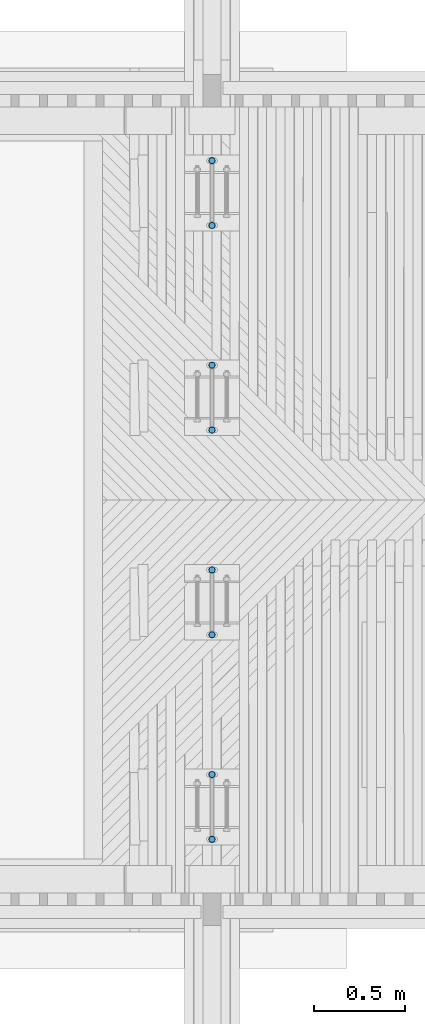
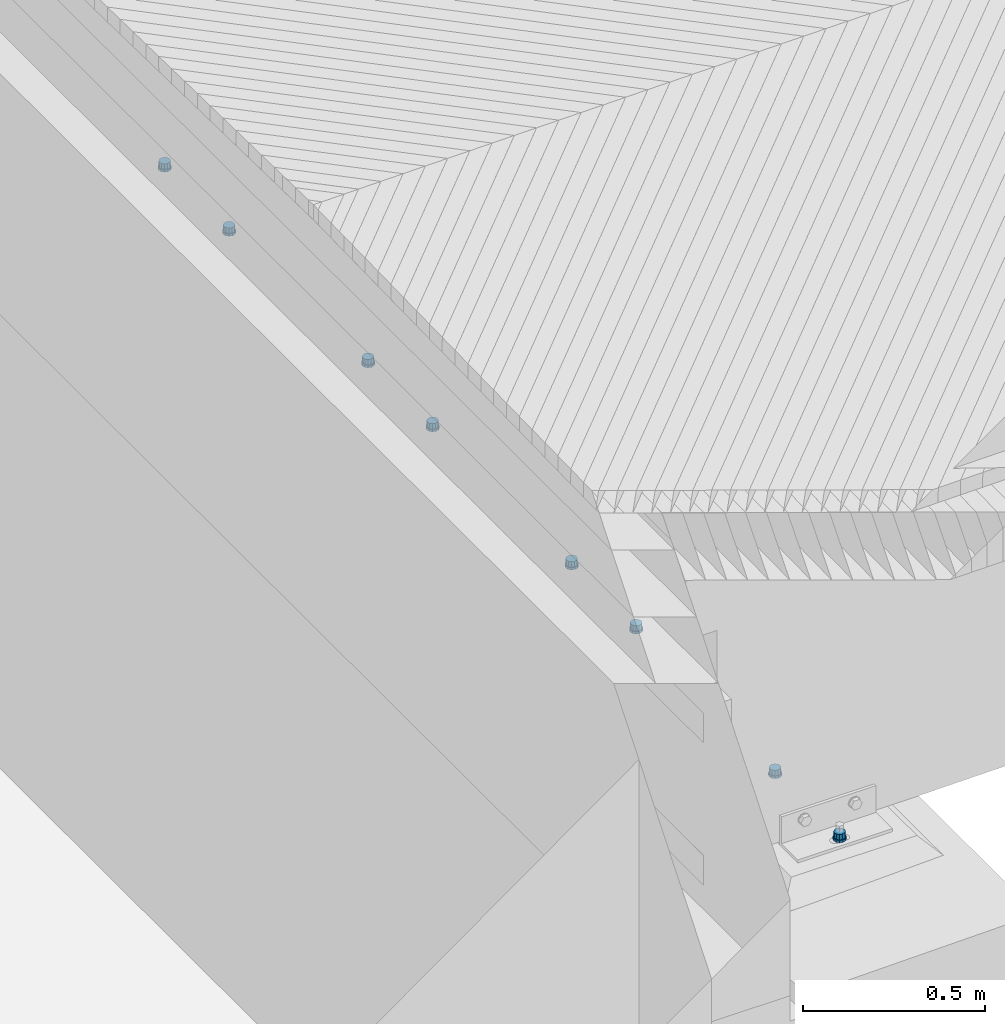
# One storey, part 14 of 53: 16 columns.
"""IFC2X3 building model written with IfcOpenShell, lengths in millimetres."""

import ifcopenshell
import ifcopenshell.guid

model = None  # the IFC model being written
_history = None  # IfcOwnerHistory: only IFC2X3 demands one
_inside = {}  # id of a spatial element -> (the spatial element, [elements in it])
_under = {}  # id of a project, library or spatial element -> (it, [spatial elements below it])
_declared = {}  # id of a project -> (the project, [libraries it declares])
_typed = {}  # id of a type object -> (the type object, [elements of that type])
_made_of = {}  # id of a material, layer set ... -> (it, [elements and type objects made of it])


def new_model(schema):
    """Start an empty IFC model of exactly this schema.

    Asked for "IFC4X3", IfcOpenShell would pick the latest addendum, in which some entities
    have other attributes; the version numbers below select the first issue.
    IFC2X3 requires an IfcOwnerHistory on every rooted entity: one is made here for all.
    """
    global model, _history
    if schema == "IFC4X3":
        model = ifcopenshell.file(schema_version=(4, 3, 0, 0))
    else:
        model = ifcopenshell.file(schema=schema)
    _inside.clear()
    _under.clear()
    _declared.clear()
    _typed.clear()
    _made_of.clear()
    _history = None
    if model.schema == "IFC2X3":
        org = make("IfcOrganization", Name="unknown")
        user = make(
            "IfcPersonAndOrganization",
            ThePerson=make("IfcPerson", FamilyName="unknown"),
            TheOrganization=org,
        )
        app = make(
            "IfcApplication",
            ApplicationDeveloper=org,
            Version="unknown",
            ApplicationFullName="unknown",
            ApplicationIdentifier="unknown",
        )
        _history = make(
            "IfcOwnerHistory",
            OwningUser=user,
            OwningApplication=app,
            ChangeAction="ADDED",
            CreationDate=0,
        )
    return model


def make(cls, **values):
    """One entity of the class cls with the attributes given. An attribute that is None is left unset."""
    return model.create_entity(
        cls, **{name: value for name, value in values.items() if value is not None}
    )


def rooted(cls, **values):
    """An entity with a GlobalId (a new one), such as an element, a storey or a relation."""
    return make(cls, GlobalId=ifcopenshell.guid.new(), OwnerHistory=_history, **values)


def si_unit(unit_type, name, prefix=None):
    """IfcSIUnit, for example si_unit("LENGTHUNIT", "METRE", prefix="MILLI")."""
    return make("IfcSIUnit", UnitType=unit_type, Prefix=prefix, Name=name)


def assignment(units):
    """IfcUnitAssignment: the units of a project."""
    return None if units is None else make("IfcUnitAssignment", Units=units)


def point(xyz):
    """IfcCartesianPoint."""
    return None if xyz is None else make("IfcCartesianPoint", Coordinates=xyz)


def direction(xyz):
    """IfcDirection."""
    return None if xyz is None else make("IfcDirection", DirectionRatios=xyz)


def frame(location, z_axis=None, x_axis=None):
    """IfcAxis2Placement3D, a coordinate frame: its origin and axes. An axis left out is left unset."""
    return make(
        "IfcAxis2Placement3D",
        Location=point(location),
        Axis=direction(z_axis),
        RefDirection=direction(x_axis),
    )


def origin_with_axes():
    """The frame at (0, 0, 0) with the z axis (0, 0, 1) and the x axis (1, 0, 0) written out."""
    return frame((0.0, 0.0, 0.0), z_axis=(0.0, 0.0, 1.0), x_axis=(1.0, 0.0, 0.0))


def place(relative_to, where):
    """IfcLocalPlacement: puts the frame where relative to a parent placement (None: the world)."""
    return make(
        "IfcLocalPlacement", PlacementRelTo=relative_to, RelativePlacement=where
    )


def context(
    kind, dimensions, precision=None, world=None, true_north=None, identifier=None
):
    """IfcGeometricRepresentationContext, for example the 3D "Model" context."""
    return make(
        "IfcGeometricRepresentationContext",
        ContextIdentifier=identifier,
        ContextType=kind,
        CoordinateSpaceDimension=dimensions,
        Precision=precision,
        WorldCoordinateSystem=world,
        TrueNorth=true_north,
    )


def subcontext(parent, identifier, kind, view, scale=None):
    """IfcGeometricRepresentationSubContext, for example "Body" below "Model"."""
    return make(
        "IfcGeometricRepresentationSubContext",
        ContextIdentifier=identifier,
        ContextType=kind,
        ParentContext=parent,
        TargetScale=scale,
        TargetView=view,
    )


def project(units=None, contexts=None):
    """IfcProject with its units and contexts."""
    return rooted(
        "IfcProject",
        Name="project",
        RepresentationContexts=contexts,
        UnitsInContext=assignment(units),
    )


def spatial(cls, under=None, at=None, **own):
    """A site, building, storey or space (cls), placed at a placement, below another one or the project."""
    s = rooted(cls, ObjectPlacement=at, **own)
    if under is not None:
        _under.setdefault(under.id(), (under, []))[1].append(s)
    return s


def faces_of(points, faces, orient=None, outer=None):
    """IfcFace entities. A face is a list of loops; a loop is a list of indices into points, from 0.

    orient and outer hold one flag for each loop. By default every Orientation is true, the
    first loop of a face is its IfcFaceOuterBound and the others are IfcFaceBound.
    """
    made = []
    for i, loops in enumerate(faces):
        bounds = []
        for j, loop in enumerate(loops):
            is_outer = j == 0 if outer is None else outer[i][j]
            bounds.append(
                make(
                    "IfcFaceOuterBound" if is_outer else "IfcFaceBound",
                    Bound=make("IfcPolyLoop", Polygon=[points[k] for k in loop]),
                    Orientation=True if orient is None else orient[i][j],
                )
            )
        made.append(make("IfcFace", Bounds=bounds))
    return made


def faceted_brep(points, faces, orient=None, outer=None, voids=None):
    """IfcFacetedBrep: a solid bounded by flat faces; with voids (closed shells), ...WithVoids."""
    shared = [point(p) for p in points]
    hull = make("IfcClosedShell", CfsFaces=faces_of(shared, faces, orient, outer))
    if voids is None:
        return make("IfcFacetedBrep", Outer=hull)
    return make(
        "IfcFacetedBrepWithVoids",
        Outer=hull,
        Voids=[
            make(cls, CfsFaces=faces_of(shared, fs, o, b)) for cls, fs, o, b in voids
        ],
    )


def shape(context_of_items, identifier, shape_type, items):
    """IfcShapeRepresentation: the items that make up one representation, for example the "Body"."""
    return make(
        "IfcShapeRepresentation",
        ContextOfItems=context_of_items,
        RepresentationIdentifier=identifier,
        RepresentationType=shape_type,
        Items=items,
    )


def material(Name=None, Category=None):
    """IfcMaterial."""
    return make("IfcMaterial", Name=Name, Category=Category)


def made_of(thing, what):
    """Note that an element or type object is made of a material, layer set ...; save() writes the relation."""
    if what is not None:
        _made_of.setdefault(what.id(), (what, []))[1].append(thing)
    return thing


def type_object(cls, material=None, **own):
    """A type object (cls), such as IfcWallType, which elements share."""
    return made_of(rooted(cls, **own), material)


def element(
    cls,
    number,
    at=None,
    inside=None,
    cuts=None,
    type_object=None,
    material=None,
    context=None,
    identifier="Body",
    shape_type=None,
    held_by="IfcProductDefinitionShape",
    body=None,
    shapes=None,
    **own,
):
    """One element of the class cls, such as IfcWall. Its Tag is "e" and its number.

    at: its placement. inside: the storey or other place that contains it. cuts: it is an
    opening in that element (IfcRelVoidsElement). A single representation is given by context,
    identifier, shape_type and body (its items); several are given by shapes. held_by: the class
    of the entity that holds the representations. save() writes the other relations.
    """
    e = rooted(cls, Tag="e%d" % number, ObjectPlacement=at, **own)
    if body is not None:
        shapes = [shape(context, identifier, shape_type, body)]
    if shapes is not None:
        e.Representation = make(held_by, Representations=shapes)
    if inside is not None:
        _inside.setdefault(inside.id(), (inside, []))[1].append(e)
    if cuts is not None:
        rooted(
            "IfcRelVoidsElement", RelatingBuildingElement=cuts, RelatedOpeningElement=e
        )
    if type_object is not None:
        _typed.setdefault(type_object.id(), (type_object, []))[1].append(e)
    return made_of(e, material)


def aggregate(whole, parts):
    """IfcRelAggregates: a whole, such as a stair, and the parts it consists of."""
    return rooted("IfcRelAggregates", RelatingObject=whole, RelatedObjects=parts)


def save(model, path):
    """Write the relations noted so far, then the file.

    IfcRelAggregates (storeys below a building ...), IfcRelContainedInSpatialStructure (elements
    in a storey), IfcRelDefinesByType, IfcRelAssociatesMaterial and IfcRelDeclares: one each for
    every whole, place, type object, material and project.
    """
    for whole, parts in _under.values():
        aggregate(whole, parts)
    for where, things in _inside.values():
        rooted(
            "IfcRelContainedInSpatialStructure",
            RelatedElements=things,
            RelatingStructure=where,
        )
    for kind, things in _typed.values():
        rooted("IfcRelDefinesByType", RelatedObjects=things, RelatingType=kind)
    for what, things in _made_of.values():
        rooted("IfcRelAssociatesMaterial", RelatedObjects=things, RelatingMaterial=what)
    for by, libraries in _declared.values():
        rooted("IfcRelDeclares", RelatingContext=by, RelatedDefinitions=libraries)
    model.write(path)


model = new_model("IFC2X3")

# Units and contexts
model_context = context("Model", 3, precision=1e-05, world=origin_with_axes())
body_context = subcontext(model_context, "Body", "Model", "MODEL_VIEW")
ifc_project = project(units=[si_unit("LENGTHUNIT", "METRE", prefix="MILLI"), si_unit("AREAUNIT", "SQUARE_METRE"), si_unit("VOLUMEUNIT", "CUBIC_METRE"), si_unit("MASSUNIT", "GRAM", prefix="KILO"), si_unit("TIMEUNIT", "SECOND"), si_unit("PLANEANGLEUNIT", "RADIAN"), si_unit("SOLIDANGLEUNIT", "STERADIAN"), si_unit("THERMODYNAMICTEMPERATUREUNIT", "DEGREE_CELSIUS"), si_unit("LUMINOUSINTENSITYUNIT", "LUMEN")], contexts=[model_context])

# Site, building, storey
site_placement = place(None, origin_with_axes())
site = spatial("IfcSite", under=ifc_project, at=site_placement, Name="Undefined", CompositionType="ELEMENT")
building_placement = place(site_placement, origin_with_axes())
building = spatial("IfcBuilding", under=site, at=building_placement, Name="Undefined", CompositionType="ELEMENT")
storey_placement = place(building_placement, origin_with_axes())
storey = spatial("IfcBuildingStorey", under=building, at=storey_placement, Name="Undefined", CompositionType="ELEMENT", Elevation=0.0)

# Columns
ifc_material = material(Name="STEEL/Steel_Undefined")
column_type_1 = type_object("IfcColumnType", Name="D38", PredefinedType="NOTDEFINED")
for number, where, z_axis, x_axis, name in (
    (1, (0.0, 42747.5000000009, 2007.32999999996), (0.0, 1.0, 0.0), (0.0, 0.0, 1.0), "BEAM"),
    (2, (0.0, 43102.5000000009, 2007.32999999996), (0.0, 1.0, 0.0), (0.0, 0.0, 1.0), "BEAM"),
    (3, (0.0, 43867.5000000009, 1985.32999999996), (0.0, 1.0, 0.0), (0.0, 0.0, 1.0), "BEAM"),
    (4, (0.0, 44222.5000000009, 1985.32999999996), (0.0, 1.0, 0.0), (0.0, 0.0, 1.0), "BEAM"),
    (5, (0.0, 41982.5, 2007.32999999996), (0.0, -1.0, 0.0), (0.0, 0.0, 1.0), "BEAM"),
    (6, (0.0, 41627.5, 2007.32999999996), (0.0, -1.0, 0.0), (0.0, 0.0, 1.0), "BEAM"),
    (7, (0.0, 40862.5, 1985.32999999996), (0.0, -1.0, 0.0), (0.0, 0.0, 1.0), "BEAM"),
    (8, (0.0, 40507.5, 1985.32999999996), (0.0, -1.0, 0.0), (0.0, 0.0, 1.0), "BEAM"),
):
    element("IfcColumn", number, at=place(storey_placement, frame(where, z_axis=z_axis, x_axis=x_axis)), inside=storey, type_object=column_type_1, material=ifc_material, Name=name, ObjectType="D38", context=body_context, shape_type="Brep", body=[
        faceted_brep([(0.0, -19.0, 0.0), (0.0, -16.4544826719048, -9.5), (8.0, -16.4544826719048, -9.5), (8.0, -19.0, 0.0), (0.0, -9.5, -16.4544826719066), (8.0, -9.5, -16.4544826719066), (0.0, 0.0, -19.0), (8.0, 0.0, -19.0), (0.0, 9.5, -16.4544826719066), (8.0, 9.5, -16.4544826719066), (0.0, 16.4544826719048, -9.5), (8.0, 16.4544826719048, -9.5), (0.0, 19.0, 0.0), (8.0, 19.0, 0.0), (0.0, 16.4544826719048, 9.5), (8.0, 16.4544826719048, 9.5), (0.0, 9.5, 16.4544826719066), (8.0, 9.5, 16.4544826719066), (0.0, 0.0, 19.0), (8.0, 0.0, 19.0), (0.0, -9.5, 16.4544826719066), (8.0, -9.5, 16.4544826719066), (0.0, -16.4544826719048, 9.5), (8.0, -16.4544826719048, 9.5)], [[[0, 1, 2, 3]], [[1, 4, 5, 2]], [[4, 6, 7, 5]], [[6, 8, 9, 7]], [[8, 10, 11, 9]], [[10, 12, 13, 11]], [[12, 14, 15, 13]], [[14, 16, 17, 15]], [[16, 18, 19, 17]], [[18, 20, 21, 19]], [[20, 22, 23, 21]], [[22, 0, 3, 23]], [[5, 7, 9, 11, 13, 15, 17, 19, 21, 23, 3, 2]], [[22, 20, 18, 16, 14, 12, 10, 8, 6, 4, 1, 0]]]),
    ])
column_type_2 = type_object("IfcColumnType", Name="D33", PredefinedType="NOTDEFINED")
for number, where, z_axis, x_axis, name in (
    (9, (0.0, 42747.5000000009, 2015.32999999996), (0.0, 1.0, 0.0), (0.0, 0.0, 1.0), "BEAM"),
    (10, (0.0, 43102.5000000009, 2015.32999999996), (0.0, 1.0, 0.0), (0.0, 0.0, 1.0), "BEAM"),
    (11, (0.0, 43867.5000000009, 1993.32999999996), (0.0, 1.0, 0.0), (0.0, 0.0, 1.0), "BEAM"),
    (12, (0.0, 44222.5000000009, 1993.32999999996), (0.0, 1.0, 0.0), (0.0, 0.0, 1.0), "BEAM"),
    (13, (0.0, 41982.5, 2015.32999999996), (0.0, -1.0, 0.0), (0.0, 0.0, 1.0), "BEAM"),
    (14, (0.0, 41627.5, 2015.32999999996), (0.0, -1.0, 0.0), (0.0, 0.0, 1.0), "BEAM"),
    (15, (0.0, 40862.5, 1993.32999999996), (0.0, -1.0, 0.0), (0.0, 0.0, 1.0), "BEAM"),
    (16, (0.0, 40507.5, 1993.32999999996), (0.0, -1.0, 0.0), (0.0, 0.0, 1.0), "BEAM"),
):
    element("IfcColumn", number, at=place(storey_placement, frame(where, z_axis=z_axis, x_axis=x_axis)), inside=storey, type_object=column_type_2, material=ifc_material, Name=name, ObjectType="D33", context=body_context, shape_type="Brep", body=[
        faceted_brep([(0.0, -16.5, 0.0), (0.0, -14.2894191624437, -8.25), (18.0, -14.2894191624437, -8.25), (18.0, -16.5, 0.0), (0.0, -8.25, -14.2894191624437), (18.0, -8.25, -14.2894191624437), (0.0, 0.0, -16.5), (18.0, 0.0, -16.5), (0.0, 8.25, -14.2894191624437), (18.0, 8.25, -14.2894191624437), (0.0, 14.2894191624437, -8.25), (18.0, 14.2894191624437, -8.25), (0.0, 16.5, 0.0), (18.0, 16.5, 0.0), (0.0, 14.2894191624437, 8.25), (18.0, 14.2894191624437, 8.25), (0.0, 8.25, 14.2894191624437), (18.0, 8.25, 14.2894191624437), (0.0, 0.0, 16.5), (18.0, 0.0, 16.5), (0.0, -8.25, 14.2894191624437), (18.0, -8.25, 14.2894191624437), (0.0, -14.2894191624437, 8.25), (18.0, -14.2894191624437, 8.25)], [[[0, 1, 2, 3]], [[1, 4, 5, 2]], [[4, 6, 7, 5]], [[6, 8, 9, 7]], [[8, 10, 11, 9]], [[10, 12, 13, 11]], [[12, 14, 15, 13]], [[14, 16, 17, 15]], [[16, 18, 19, 17]], [[18, 20, 21, 19]], [[20, 22, 23, 21]], [[22, 0, 3, 23]], [[5, 7, 9, 11, 13, 15, 17, 19, 21, 23, 3, 2]], [[22, 20, 18, 16, 14, 12, 10, 8, 6, 4, 1, 0]]]),
    ])

save(model, "model.ifc")
